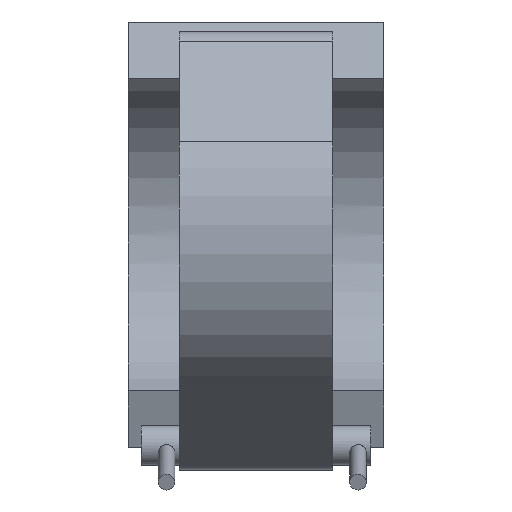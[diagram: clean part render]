
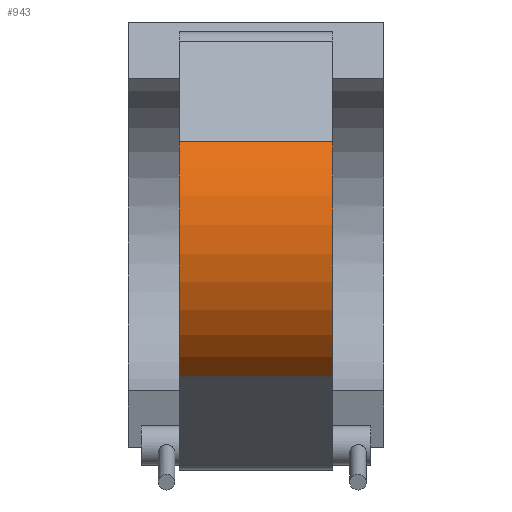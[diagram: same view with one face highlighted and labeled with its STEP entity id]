
A CAD part, front view. The second image highlights one B-rep face of the part: STEP entity #943.
In plain terms, the highlighted cylindrical face has radius 120.172 mm (diameter 240.345 mm), a partial arc.
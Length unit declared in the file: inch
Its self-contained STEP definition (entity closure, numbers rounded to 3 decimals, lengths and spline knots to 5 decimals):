
#134=FACE_OUTER_BOUND('',#210,.T.);
#210=EDGE_LOOP('',(#833,#834,#835,#836));
#271=LINE('',#1944,#333);
#272=LINE('',#1948,#334);
#333=VECTOR('',#1325,0.3937);
#334=VECTOR('',#1330,0.3937);
#387=CIRCLE('',#1063,4.7312);
#390=CIRCLE('',#1068,4.7312);
#471=VERTEX_POINT('',#1928);
#472=VERTEX_POINT('',#1930);
#477=VERTEX_POINT('',#1942);
#478=VERTEX_POINT('',#1946);
#592=EDGE_CURVE('',#471,#472,#387,.T.);
#599=EDGE_CURVE('',#471,#477,#271,.T.);
#600=EDGE_CURVE('',#478,#477,#390,.T.);
#601=EDGE_CURVE('',#472,#478,#272,.T.);
#833=ORIENTED_EDGE('',*,*,#599,.T.);
#834=ORIENTED_EDGE('',*,*,#600,.F.);
#835=ORIENTED_EDGE('',*,*,#601,.F.);
#836=ORIENTED_EDGE('',*,*,#592,.F.);
#890=CYLINDRICAL_SURFACE('',#1067,4.7312);
#943=ADVANCED_FACE('',(#134),#890,.T.);
#1063=AXIS2_PLACEMENT_3D('',#1931,#1313,#1314);
#1067=AXIS2_PLACEMENT_3D('',#1945,#1326,#1327);
#1068=AXIS2_PLACEMENT_3D('',#1947,#1328,#1329);
#1313=DIRECTION('center_axis',(-1.,0.,0.));
#1314=DIRECTION('ref_axis',(0.,-0.846,0.533));
#1325=DIRECTION('',(1.,0.,0.));
#1326=DIRECTION('center_axis',(1.,0.,0.));
#1327=DIRECTION('ref_axis',(0.,-0.846,0.533));
#1328=DIRECTION('center_axis',(1.,0.,0.));
#1329=DIRECTION('ref_axis',(0.,-0.846,0.533));
#1330=DIRECTION('',(1.,0.,0.));
#1928=CARTESIAN_POINT('',(-5.544,-2.76014,-3.84264));
#1930=CARTESIAN_POINT('',(-5.544,-4.00265,2.52251));
#1931=CARTESIAN_POINT('Origin',(-5.544,0.,0.));
#1942=CARTESIAN_POINT('',(-1.386,-2.76014,-3.84264));
#1944=CARTESIAN_POINT('',(-3.465,-2.76014,-3.84264));
#1945=CARTESIAN_POINT('Origin',(-3.465,0.,0.));
#1946=CARTESIAN_POINT('',(-1.386,-4.00265,2.52251));
#1947=CARTESIAN_POINT('Origin',(-1.386,0.,0.));
#1948=CARTESIAN_POINT('',(-3.465,-4.00265,2.52251));
